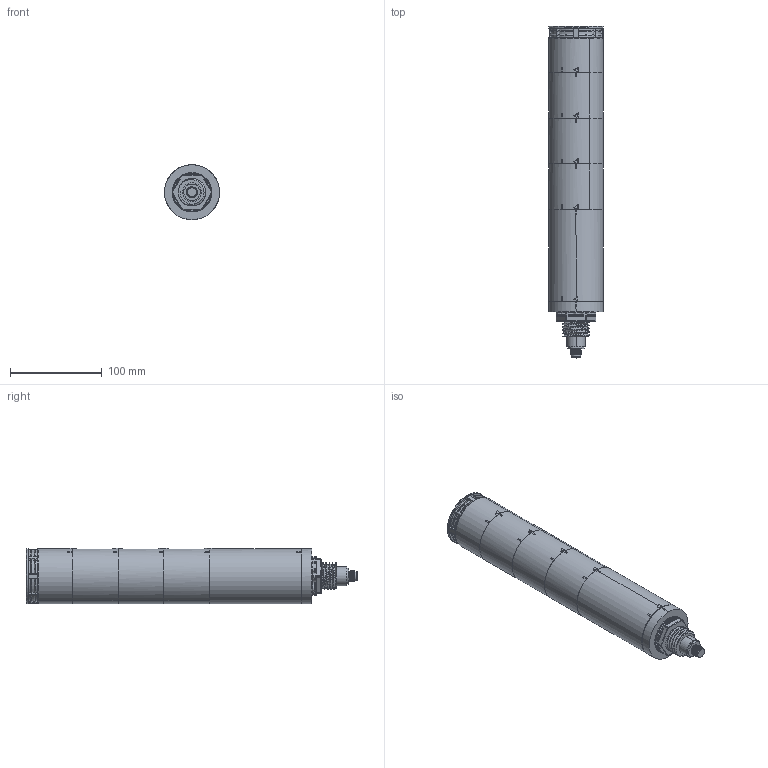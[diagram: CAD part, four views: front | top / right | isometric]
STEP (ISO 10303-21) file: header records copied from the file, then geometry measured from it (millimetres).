
FILE_DESCRIPTION (( 'STEP AP203' ), '1' );
FILE_NAME ('QTR60L-IOL-HBZ-3-RAG-3D_250422.STEP', '2025-07-30T08:26:17', ( '' ), ( '' ), 'SwSTEP 2.0', 'SolidWorks 2019', '' );
FILE_SCHEMA (( 'CONFIG_CONTROL_DESIGN' ));
Length unit declared in the file: millimetre
Products named in the file (4): QTR60L-IOL-HBZ-3-RAG-3D_250422; 餌獄 MTG60-BS-DC-M12^QTR60L-IOL-HBZ-3-RAG-3D_250422; QTG60 HBZ; QTC60 GLOBE
Assembly tree (5 placements, depth 2):
  QTR60L-IOL-HBZ-3-RAG-3D_250422
    餌獄 MTG60-BS-DC-M12^QTR60L-IOL-HBZ-3-RAG-3D_250422
    QTC60 GLOBE  x3
    QTG60 HBZ
Bounding box: 60 x 362.3 x 60.5 mm (x, y, z)
Volume: 922023.5 mm3; surface area: 95778.3 mm2
Topology: 5 solids, 6 shells, 669 faces, 1868 edges, 1228 vertices
Faces by surface type: cylinder 440, plane 154, bspline 29, cone 18, torus 16, sphere 12
Entity records: 28923 total; most frequent: CARTESIAN_POINT 11756, DIRECTION 3701, ORIENTED_EDGE 3560, EDGE_CURVE 1780, AXIS2_PLACEMENT_3D 1511, VERTEX_POINT 1168, CIRCLE 895, VECTOR 679
